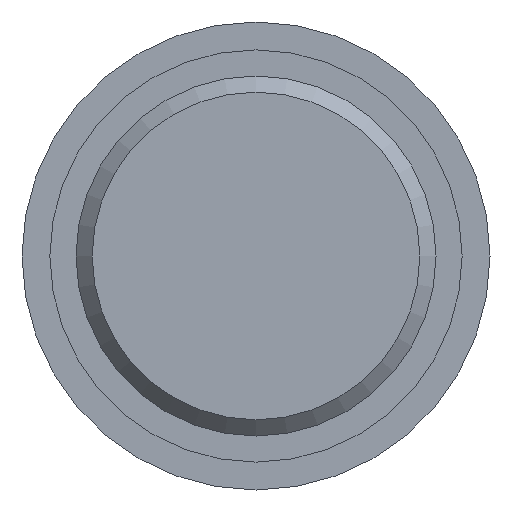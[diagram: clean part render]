
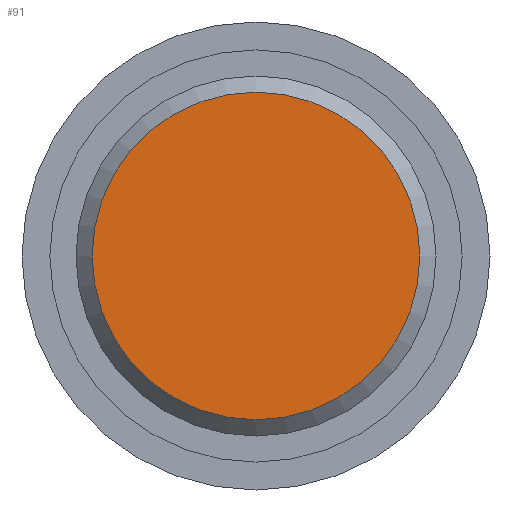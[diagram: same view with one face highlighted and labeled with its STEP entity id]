
A CAD part, front view. The second image highlights one B-rep face of the part: STEP entity #91.
In plain terms, the highlighted planar face has unit normal (0, -1, 0).
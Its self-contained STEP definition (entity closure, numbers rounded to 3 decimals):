
#91 = ADVANCED_FACE( '', ( #138 ), #139, .F. );
#138 = FACE_OUTER_BOUND( '', #193, .T. );
#139 = PLANE( '', #194 );
#193 = EDGE_LOOP( '', ( #308 ) );
#194 = AXIS2_PLACEMENT_3D( '', #309, #310, #311 );
#308 = ORIENTED_EDGE( '', *, *, #359, .T. );
#309 = CARTESIAN_POINT( '', ( 9.1, 0., 0. ) );
#310 = DIRECTION( '', ( 0., 1., 0. ) );
#311 = DIRECTION( '', ( 0., 0., 1. ) );
#359 = EDGE_CURVE( '', #411, #411, #412, .T. );
#411 = VERTEX_POINT( '', #485 );
#412 = CIRCLE( '', #486, 9.1 );
#485 = CARTESIAN_POINT( '', ( 0., 0., -9.1 ) );
#486 = AXIS2_PLACEMENT_3D( '', #538, #539, #540 );
#538 = CARTESIAN_POINT( '', ( 0., 0., 0. ) );
#539 = DIRECTION( '', ( 0., -1., 0. ) );
#540 = DIRECTION( '', ( 0., 0., -1. ) );
